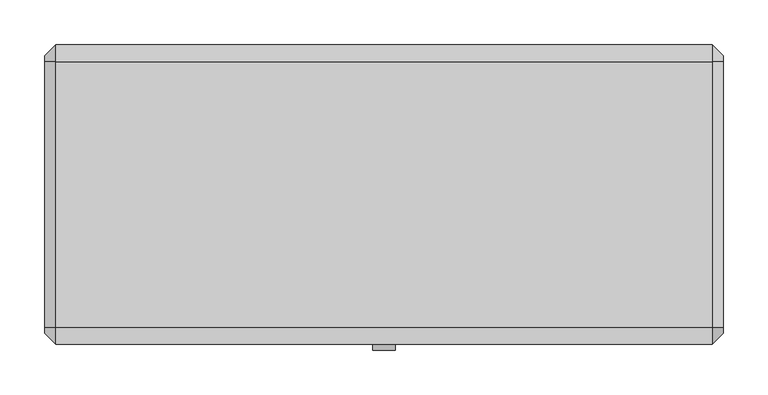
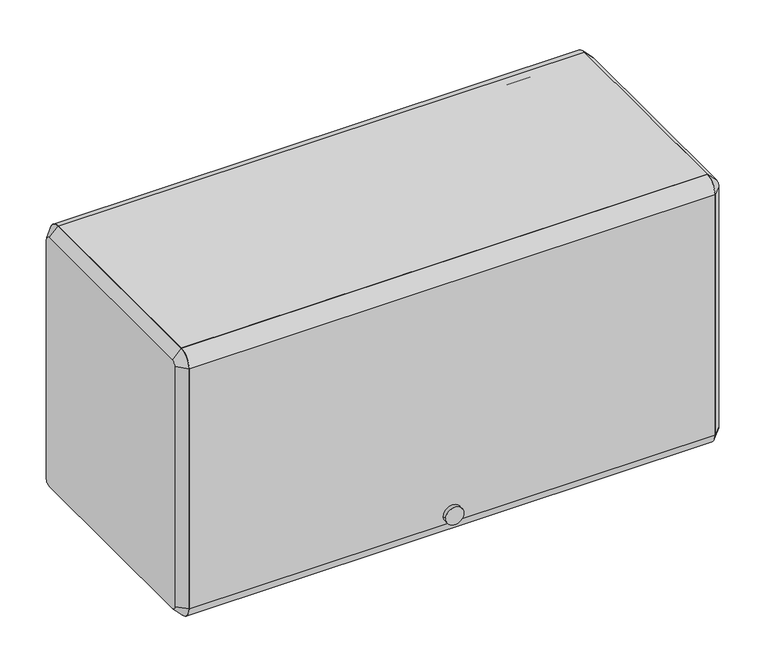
"""IFC4 building model written with IfcOpenShell, lengths in millimetres: furniture geometry."""

from ifc_helpers import new_model, si_unit, point, frame, frame_2d, origin, place, context, project, spatial, polyline, circle_curve, trimmed, segment, composite_curve, outline, extrude, source, transform, mapped, element, save
from ifc_brep_helpers import plane_surface, revolved_surface, advanced_brep


def furniture_cbd01bae(model_context):
    return source(origin(), model_context, "Body", "SolidModel", [
        extrude(outline(composite_curve([segment(polyline([(-136.525, 1638.3), (-136.525, 1651.0), (161.925, 1651.0)]), True, "CONTINUOUS"), segment(trimmed(circle_curve(frame_2d((161.925, 1631.95)), 19.05), [point((161.925, 1651.0))], [point((180.975, 1631.95))], False, "CARTESIAN"), True, "CONTINUOUS"), segment(polyline([(180.975, 1631.95), (168.275, 1631.95)]), True, "CONTINUOUS"), segment(trimmed(circle_curve(frame_2d((161.925, 1631.95)), 6.35), [point((168.275, 1631.95))], [point((161.925, 1638.3))], True, "CARTESIAN"), True, "CONTINUOUS"), segment(polyline([(161.925, 1638.3), (-136.525, 1638.3)]), True, "CONTINUOUS")], self_intersect=False)), frame((-368.3, 0.0, 0.0), z_axis=(1.0, 0.0, 0.0), x_axis=(0.0, 1.0, 0.0)), (0.0, 0.0, 1.0), 736.6),
        extrude(outline(composite_curve([segment(trimmed(circle_curve(frame_2d((-136.525, 1631.95)), 19.05), [point((-155.575, 1631.95))], [point((-136.525, 1651.0))], False, "CARTESIAN"), True, "CONTINUOUS"), segment(polyline([(-136.525, 1651.0), (-136.525, 1638.3)]), True, "CONTINUOUS"), segment(trimmed(circle_curve(frame_2d((-136.525, 1631.95)), 6.35), [point((-136.525, 1638.3))], [point((-142.875, 1631.95))], True, "CARTESIAN"), True, "CONTINUOUS"), segment(polyline([(-142.875, 1631.95), (-142.875, 1276.35)]), True, "CONTINUOUS"), segment(trimmed(circle_curve(frame_2d((-136.525, 1276.35)), 6.35), [point((-142.875, 1276.35))], [point((-136.525, 1270.0))], True, "CARTESIAN"), True, "CONTINUOUS"), segment(polyline([(-136.525, 1270.0), (-136.525, 1257.3)]), True, "CONTINUOUS"), segment(trimmed(circle_curve(frame_2d((-136.525, 1276.35)), 19.05), [point((-136.525, 1257.3))], [point((-155.575, 1276.35))], False, "CARTESIAN"), True, "CONTINUOUS"), segment(polyline([(-155.575, 1276.35), (-155.575, 1631.95)]), True, "CONTINUOUS")], self_intersect=False)), frame((-368.3, 0.0, 0.0), z_axis=(1.0, 0.0, 0.0), x_axis=(0.0, 1.0, 0.0)), (0.0, 0.0, 1.0), 736.6),
        extrude(outline(composite_curve([segment(trimmed(circle_curve(frame_2d((1289.0118906, 0.0201199)), 12.7253951), [point((1289.0118906, 12.745515))], [point((1289.0118906, -12.7052752))], False, "CARTESIAN"), True, "CONTINUOUS"), segment(trimmed(circle_curve(frame_2d((1289.0118906, 0.0201199)), 12.7253951), [point((1289.0118906, -12.7052752))], [point((1289.0118906, 12.745515))], False, "CARTESIAN"), True, "CONTINUOUS")], self_intersect=False)), frame((0.0, -161.925, 0.0), z_axis=(0.0, 1.0, 0.0), x_axis=(0.0, 0.0, 1.0)), (0.0, 0.0, 1.0), 6.35),
        extrude(outline(polyline([(-136.525, 1295.4), (161.925, 1295.4), (161.925, 1333.5), (174.625, 1333.5), (174.625, 1330.325), (165.1, 1330.325), (165.1, 1292.225), (-133.35, 1292.225), (-133.35, 1273.175), (-136.525, 1273.175), (-136.525, 1295.4)])), frame((-368.3, 0.0, 0.0), z_axis=(1.0, 0.0, 0.0), x_axis=(0.0, 1.0, 0.0)), (0.0, 0.0, 1.0), 736.6),
        advanced_brep(
        [(381.0, 161.925, 1638.3), (381.0, -136.525, 1638.3), (381.0, -142.875, 1631.95), (381.0, -142.875, 1276.35), (381.0, -136.525, 1270.0), (381.0, 161.925, 1270.0), (381.0, 168.275, 1276.35), (381.0, 168.275, 1631.95), (368.3, 161.925, 1651.0), (368.3, 180.975, 1631.95), (368.3, 180.975, 1276.35), (368.3, 161.925, 1257.3), (368.3, -136.525, 1257.3), (368.3, -155.575, 1276.35), (368.3, -155.575, 1631.95), (368.3, -136.525, 1651.0)],
        [
            (0, 1),
            (1, 2, circle_curve(frame((381.0, -136.525, 1631.95), z_axis=(1.0, 6.493472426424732e-12, -6.586731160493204e-12), x_axis=(6.586694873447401e-12, 0.0, 1.0)), 6.35)),
            (2, 3),
            (3, 4, circle_curve(frame((381.0, -136.525, 1276.35), z_axis=(1.0, 3.3733016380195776e-12, 3.3892888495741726e-12), x_axis=(3.373343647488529e-12, -1.0, 0.0)), 6.35)),
            (4, 5),
            (5, 6, circle_curve(frame((381.0, 161.925, 1276.35), z_axis=(1.0, 3.381295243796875e-12, -3.3892888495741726e-12), x_axis=(-3.38935859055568e-12, 0.0, -1.0)), 6.35)),
            (6, 7),
            (7, 0, circle_curve(frame((381.0, 161.925, 1631.95), z_axis=(1.0, 6.482814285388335e-12, 6.3948846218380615e-12), x_axis=(-6.482754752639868e-12, 1.0, 0.0)), 6.35)),
            (8, 9, circle_curve(frame((368.3, 161.925, 1631.95), z_axis=(-1.0, -6.482814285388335e-12, -6.3948846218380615e-12), x_axis=(-6.482754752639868e-12, 1.0, 0.0)), 19.05)),
            (9, 10),
            (10, 11, circle_curve(frame((368.3, 161.925, 1276.35), z_axis=(-1.0, -3.381295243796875e-12, 3.3892888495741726e-12), x_axis=(-3.38935859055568e-12, 0.0, -1.0)), 19.05)),
            (11, 12),
            (12, 13, circle_curve(frame((368.3, -136.525, 1276.35), z_axis=(-1.0, -3.3733016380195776e-12, -3.3892888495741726e-12), x_axis=(3.373343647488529e-12, -1.0, 0.0)), 19.05)),
            (13, 14),
            (14, 15, circle_curve(frame((368.3, -136.525, 1631.95), z_axis=(-1.0, -6.493472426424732e-12, 6.586731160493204e-12), x_axis=(6.586694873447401e-12, 0.0, 1.0)), 19.05)),
            (15, 8),
            (15, 1),
            (0, 8),
            (14, 2),
            (13, 3),
            (12, 4),
            (11, 5),
            (10, 6),
            (9, 7),
        ],
        [
            plane_surface(frame((381.0, 12.7, 1454.15), z_axis=(1.0, 0.0, 0.0), x_axis=(0.0, -1.0, 0.0))),
            plane_surface(frame((368.3, 12.7, 1454.15), z_axis=(-1.0, 0.0, 0.0), x_axis=(0.0, -1.0, 0.0))),
            plane_surface(frame((368.3, 12.7, 1651.0), z_axis=(0.707106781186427, 0.0, 0.7071067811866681), x_axis=(0.0, -1.0, 0.0))),
            revolved_surface(polyline([(381.00000000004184, -136.525, 1638.2999999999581), (368.3, -136.525, 1651.0)]), (387.35, -136.525, 1631.95), (-1.0, -6.493472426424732e-12, 6.586731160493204e-12)),
            plane_surface(frame((368.3, -155.575, 1454.15), z_axis=(0.7071067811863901, -0.7071067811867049, 0.0), x_axis=(0.0, 0.0, -1.0))),
            revolved_surface(polyline([(381.00000000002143, -142.8749999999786, 1276.35), (368.2999999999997, -155.5750000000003, 1276.35)]), (387.35, -136.525, 1276.35), (-1.0, -3.3733016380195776e-12, -3.3892888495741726e-12)),
            plane_surface(frame((368.3, 12.7, 1257.3), z_axis=(0.7071067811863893, 0.0, -0.7071067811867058), x_axis=(0.0, 1.0, 0.0))),
            revolved_surface(polyline([(381.0, 161.925, 1270.0), (368.29999999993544, 161.925, 1257.2999999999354)]), (387.35, 161.925, 1276.35), (-1.0, -3.381295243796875e-12, 3.3892888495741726e-12)),
            plane_surface(frame((368.3, 180.975, 1454.15), z_axis=(0.7071067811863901, 0.7071067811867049, 0.0), x_axis=(0.0, 0.0, 1.0))),
            revolved_surface(polyline([(381.0, 168.27500000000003, 1631.95), (368.2999999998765, 180.9750000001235, 1631.95)]), (387.35, 161.925, 1631.95), (-1.0, -6.482814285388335e-12, -6.3948846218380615e-12)),
        ],
        [
            (0, [[1, 2, 3, 4, 5, 6, 7, 8]]),
            (1, [[9, 10, 11, 12, 13, 14, 15, 16]]),
            (2, [[-16, 17, -1, 18]]),
            (3, [[-15, 19, -2, -17]]),
            (4, [[-14, 20, -3, -19]]),
            (5, [[-13, 21, -4, -20]]),
            (6, [[-12, 22, -5, -21]]),
            (7, [[-11, 23, -6, -22]]),
            (8, [[-10, 24, -7, -23]]),
            (9, [[-9, -18, -8, -24]]),
        ],
    ),
        advanced_brep(
        [(-381.0, -136.525, 1638.3), (-381.0, 161.925, 1638.3), (-381.0, 168.275, 1631.95), (-381.0, 168.275, 1276.35), (-381.0, 161.925, 1270.0), (-381.0, -136.525, 1270.0), (-381.0, -142.875, 1276.35), (-381.0, -142.875, 1631.95), (-368.3, -136.525, 1651.0), (-368.3, -155.575, 1631.95), (-368.3, -155.575, 1276.35), (-368.3, -136.525, 1257.3), (-368.3, 161.925, 1257.3), (-368.3, 180.975, 1276.35), (-368.3, 180.975, 1631.95), (-368.3, 161.925, 1651.0)],
        [
            (0, 1),
            (1, 2, circle_curve(frame((-381.0, 161.925, 1631.95), z_axis=(-1.0, 3.3653080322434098e-12, 3.453237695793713e-12), x_axis=(3.453261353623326e-12, 0.0, 1.0)), 6.35)),
            (2, 3),
            (3, 4, circle_curve(frame((-381.0, 161.925, 1276.35), z_axis=(-1.0, 0.0, 0.0), x_axis=(0.0, 1.0, 0.0)), 6.35)),
            (4, 5),
            (5, 6, circle_curve(frame((-381.0, -136.525, 1276.35), z_axis=(-1.0, 0.0, 0.0), x_axis=(0.0, 0.0, -1.0)), 6.35)),
            (6, 7),
            (7, 0, circle_curve(frame((-381.0, -136.525, 1631.95), z_axis=(-1.0, 3.3839597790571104e-12, -3.304023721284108e-12), x_axis=(-3.384020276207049e-12, -1.0, 0.0)), 6.35)),
            (8, 9, circle_curve(frame((-368.3, -136.525, 1631.95), z_axis=(1.0, -3.3839597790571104e-12, 3.304023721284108e-12), x_axis=(-3.384020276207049e-12, -1.0, 0.0)), 19.05)),
            (9, 10),
            (10, 11, circle_curve(frame((-368.3, -136.525, 1276.35), z_axis=(1.0, 0.0, 0.0), x_axis=(0.0, 0.0, -1.0)), 19.05)),
            (11, 12),
            (12, 13, circle_curve(frame((-368.3, 161.925, 1276.35), z_axis=(1.0, 0.0, 0.0), x_axis=(0.0, 1.0, 0.0)), 19.05)),
            (13, 14),
            (14, 15, circle_curve(frame((-368.3, 161.925, 1631.95), z_axis=(1.0, -3.3653080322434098e-12, -3.453237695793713e-12), x_axis=(3.453261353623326e-12, 0.0, 1.0)), 19.05)),
            (15, 8),
            (15, 1),
            (0, 8),
            (14, 2),
            (13, 3),
            (12, 4),
            (11, 5),
            (10, 6),
            (9, 7),
        ],
        [
            plane_surface(frame((-381.0, 12.7, 1454.15), z_axis=(-1.0, 0.0, 0.0), x_axis=(0.0, -1.0, 0.0))),
            plane_surface(frame((-368.3, 12.7, 1454.15), z_axis=(1.0, 0.0, 0.0), x_axis=(0.0, -1.0, 0.0))),
            plane_surface(frame((-368.3, 12.7, 1651.0), z_axis=(-0.7071067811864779, 0.0, 0.7071067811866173), x_axis=(0.0, 1.0, 0.0))),
            revolved_surface(polyline([(-381.0, 161.925, 1638.3), (-368.29999999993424, 161.925, 1651.0000000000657)]), (-387.35, 161.925, 1631.95), (1.0, -3.3653080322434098e-12, -3.453237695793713e-12)),
            plane_surface(frame((-368.3, 180.975, 1454.15), z_axis=(-0.7071067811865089, 0.7071067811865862, 0.0), x_axis=(0.0, 0.0, -1.0))),
            revolved_surface(polyline([(-381.0, 168.27500000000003, 1276.35), (-368.3, 180.975, 1276.35)]), (-387.35, 161.925, 1276.35), (1.0, 0.0, 0.0)),
            plane_surface(frame((-368.3, 12.7, 1257.3), z_axis=(-0.7071067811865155, 0.0, -0.7071067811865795), x_axis=(0.0, -1.0, 0.0))),
            revolved_surface(polyline([(-381.0, -136.525, 1270.0), (-368.3, -136.525, 1257.3)]), (-387.35, -136.525, 1276.35), (1.0, 0.0, 0.0)),
            plane_surface(frame((-368.3, -155.575, 1454.15), z_axis=(-0.7071067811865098, -0.7071067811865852, 0.0), x_axis=(0.0, 0.0, 1.0))),
            revolved_surface(polyline([(-381.0000000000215, -142.87499999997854, 1631.95), (-368.3, -155.575, 1631.95)]), (-387.35, -136.525, 1631.95), (1.0, -3.3839597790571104e-12, 3.304023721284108e-12)),
        ],
        [
            (0, [[1, 2, 3, 4, 5, 6, 7, 8]]),
            (1, [[9, 10, 11, 12, 13, 14, 15, 16]]),
            (2, [[-16, 17, -1, 18]]),
            (3, [[-15, 19, -2, -17]]),
            (4, [[-14, 20, -3, -19]]),
            (5, [[-13, 21, -4, -20]]),
            (6, [[-12, 22, -5, -21]]),
            (7, [[-11, 23, -6, -22]]),
            (8, [[-10, 24, -7, -23]]),
            (9, [[-9, -18, -8, -24]]),
        ],
    ),
    ])


if __name__ == "__main__":
    model = new_model("IFC4")
    model_context = context("Model", 3, world=origin())
    ifc_project = project(units=[si_unit("LENGTHUNIT", "METRE", prefix="MILLI")], contexts=[model_context])
    site = spatial("IfcSite", under=ifc_project)
    building = spatial("IfcBuilding", under=site)
    placement = place(None, origin())
    furniture_shape = furniture_cbd01bae(model_context)
    element("IfcFurniture", 1, ObjectType="HermanMiller_ActionOffice_A3352_B-StyleFlipperDoorUnit : 15 1/2\"H x 13\"D x 30\"W", at=placement, inside=building, context=model_context, shape_type="MappedRepresentation", body=[
        mapped(furniture_shape, transform((0.0, 0.0, 0.0), x_axis=(1.0, 0.0, 0.0), y_axis=(0.0, 1.0, 0.0), z_axis=(0.0, 0.0, 1.0))),
    ])
    save(model, "model.ifc")
